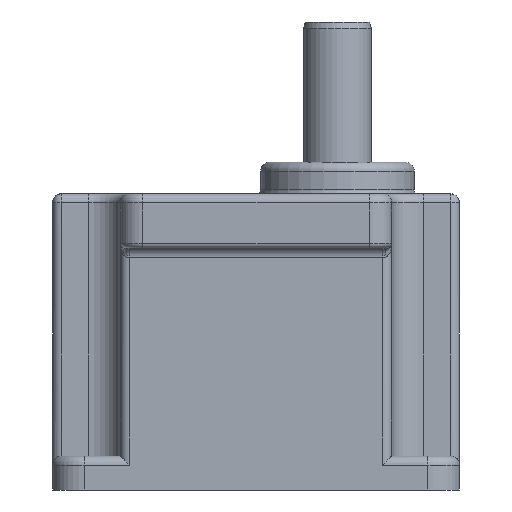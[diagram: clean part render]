
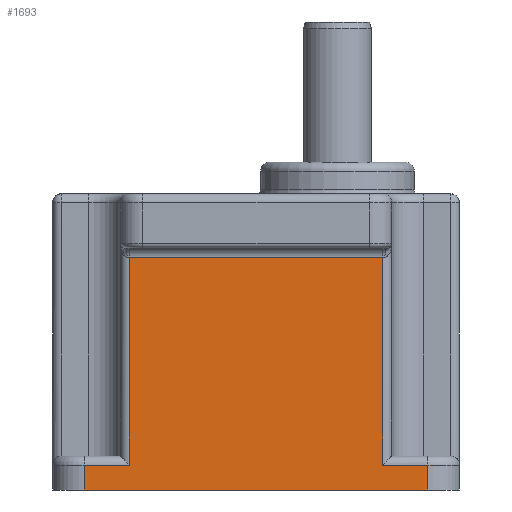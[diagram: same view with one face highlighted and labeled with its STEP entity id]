
A CAD part, left-side view. The second image highlights one B-rep face of the part: STEP entity #1693.
In plain terms, the highlighted planar face has unit normal (-1, 0, 0).
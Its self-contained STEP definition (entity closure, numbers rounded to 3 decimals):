
#1436=CARTESIAN_POINT('',(0.0,73.0,51.5));
#1437=VERTEX_POINT('',#1436);
#1462=CARTESIAN_POINT('',(0.0,17.0,51.5));
#1463=VERTEX_POINT('',#1462);
#1473=CARTESIAN_POINT('',(0.0,73.0,51.5));
#1474=DIRECTION('',(0.0,-1.0,0.0));
#1475=VECTOR('',#1474,56.0);
#1476=LINE('',#1473,#1475);
#1477=EDGE_CURVE('',#1437,#1463,#1476,.T.);
#1612=CARTESIAN_POINT('',(0.0,17.0,5.5));
#1613=VERTEX_POINT('',#1612);
#1614=CARTESIAN_POINT('',(0.0,17.0,5.5));
#1615=DIRECTION('',(0.0,0.0,1.0));
#1616=VECTOR('',#1615,46.);
#1617=LINE('',#1614,#1616);
#1618=EDGE_CURVE('',#1613,#1463,#1617,.T.);
#1638=CARTESIAN_POINT('',(0.0,0.0,0.0));
#1639=DIRECTION('',(-1.0,0.0,0.0));
#1640=DIRECTION('',(0.0,0.0,1.0));
#1641=AXIS2_PLACEMENT_3D('',#1638,#1639,#1640);
#1642=PLANE('',#1641);
#1643=ORIENTED_EDGE('',*,*,#1477,.F.);
#1644=CARTESIAN_POINT('',(0.0,73.0,5.5));
#1645=VERTEX_POINT('',#1644);
#1646=CARTESIAN_POINT('',(0.0,73.0,5.5));
#1647=DIRECTION('',(0.0,0.0,1.0));
#1648=VECTOR('',#1647,46.);
#1649=LINE('',#1646,#1648);
#1650=EDGE_CURVE('',#1645,#1437,#1649,.T.);
#1651=ORIENTED_EDGE('',*,*,#1650,.F.);
#1652=CARTESIAN_POINT('',(0.0,83.0,5.5));
#1653=VERTEX_POINT('',#1652);
#1654=CARTESIAN_POINT('',(0.0,83.0,5.5));
#1655=DIRECTION('',(0.0,-1.0,0.0));
#1656=VECTOR('',#1655,10.0);
#1657=LINE('',#1654,#1656);
#1658=EDGE_CURVE('',#1653,#1645,#1657,.T.);
#1659=ORIENTED_EDGE('',*,*,#1658,.F.);
#1660=CARTESIAN_POINT('',(0.0,83.0,0.0));
#1661=VERTEX_POINT('',#1660);
#1662=CARTESIAN_POINT('',(0.0,83.0,0.0));
#1663=DIRECTION('',(0.0,0.0,1.0));
#1664=VECTOR('',#1663,5.5);
#1665=LINE('',#1662,#1664);
#1666=EDGE_CURVE('',#1661,#1653,#1665,.T.);
#1667=ORIENTED_EDGE('',*,*,#1666,.F.);
#1668=CARTESIAN_POINT('',(0.0,7.,0.0));
#1669=VERTEX_POINT('',#1668);
#1670=CARTESIAN_POINT('',(0.0,83.0,0.0));
#1671=DIRECTION('',(0.0,-1.0,0.0));
#1672=VECTOR('',#1671,76.0);
#1673=LINE('',#1670,#1672);
#1674=EDGE_CURVE('',#1661,#1669,#1673,.T.);
#1675=ORIENTED_EDGE('',*,*,#1674,.T.);
#1676=CARTESIAN_POINT('',(0.0,7.,5.5));
#1677=VERTEX_POINT('',#1676);
#1678=CARTESIAN_POINT('',(0.0,7.,5.5));
#1679=DIRECTION('',(0.0,0.0,-1.0));
#1680=VECTOR('',#1679,5.5);
#1681=LINE('',#1678,#1680);
#1682=EDGE_CURVE('',#1677,#1669,#1681,.T.);
#1683=ORIENTED_EDGE('',*,*,#1682,.F.);
#1684=CARTESIAN_POINT('',(0.0,17.0,5.5));
#1685=DIRECTION('',(0.0,-1.0,0.0));
#1686=VECTOR('',#1685,10.);
#1687=LINE('',#1684,#1686);
#1688=EDGE_CURVE('',#1613,#1677,#1687,.T.);
#1689=ORIENTED_EDGE('',*,*,#1688,.F.);
#1690=ORIENTED_EDGE('',*,*,#1618,.T.);
#1691=EDGE_LOOP('',(#1643,#1651,#1659,#1667,#1675,#1683,#1689,#1690));
#1692=FACE_OUTER_BOUND('',#1691,.T.);
#1693=ADVANCED_FACE('',(#1692),#1642,.T.);
